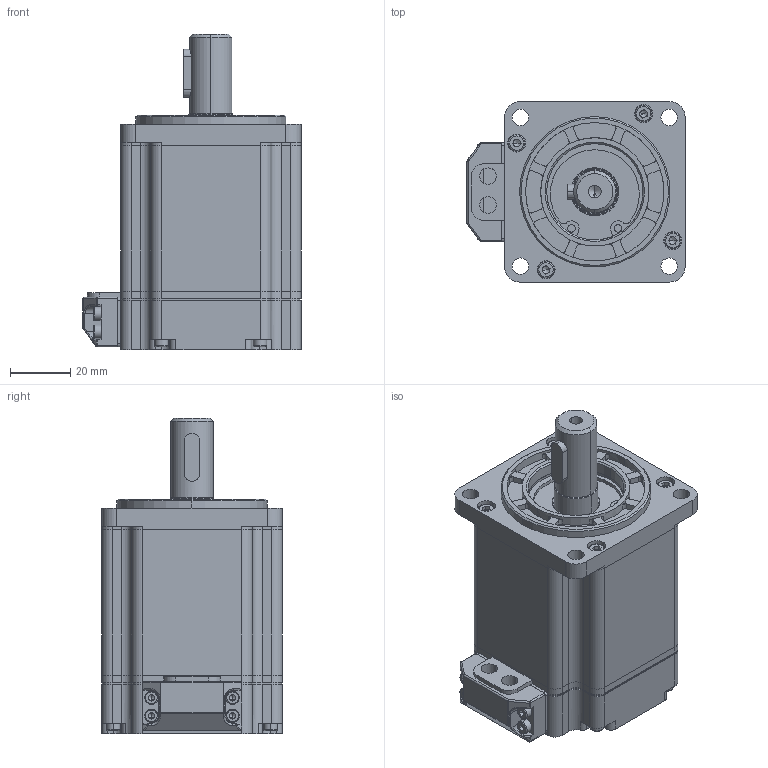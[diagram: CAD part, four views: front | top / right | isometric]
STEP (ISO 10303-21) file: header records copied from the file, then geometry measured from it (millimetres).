
FILE_DESCRIPTION (( 'STEP AP203' ), '1' );
FILE_NAME ('淕儂蚾饜.STEP', '2021-03-12T05:24:09', ( 'admin' ), ( '' ), 'SwSTEP 2.0', 'SolidWorks 2016', '' );
FILE_SCHEMA (( 'CONFIG_CONTROL_DESIGN' ));
Length unit declared in the file: millimetre
Products named in the file (1): 淕儂蚾饜
Bounding box: 72.5 x 60 x 105 mm (x, y, z)
Volume: 109111.2 mm3; surface area: 81735 mm2
Topology: 25 solids, 25 shells, 1261 faces, 3443 edges, 2180 vertices
Faces by surface type: cylinder 537, plane 465, cone 113, torus 90, sphere 46, bspline 10
Entity records: 41425 total; most frequent: CARTESIAN_POINT 9418, DIRECTION 6996, ORIENTED_EDGE 6568, EDGE_CURVE 3284, AXIS2_PLACEMENT_3D 2748, VERTEX_POINT 2116, LINE 1500, VECTOR 1500
